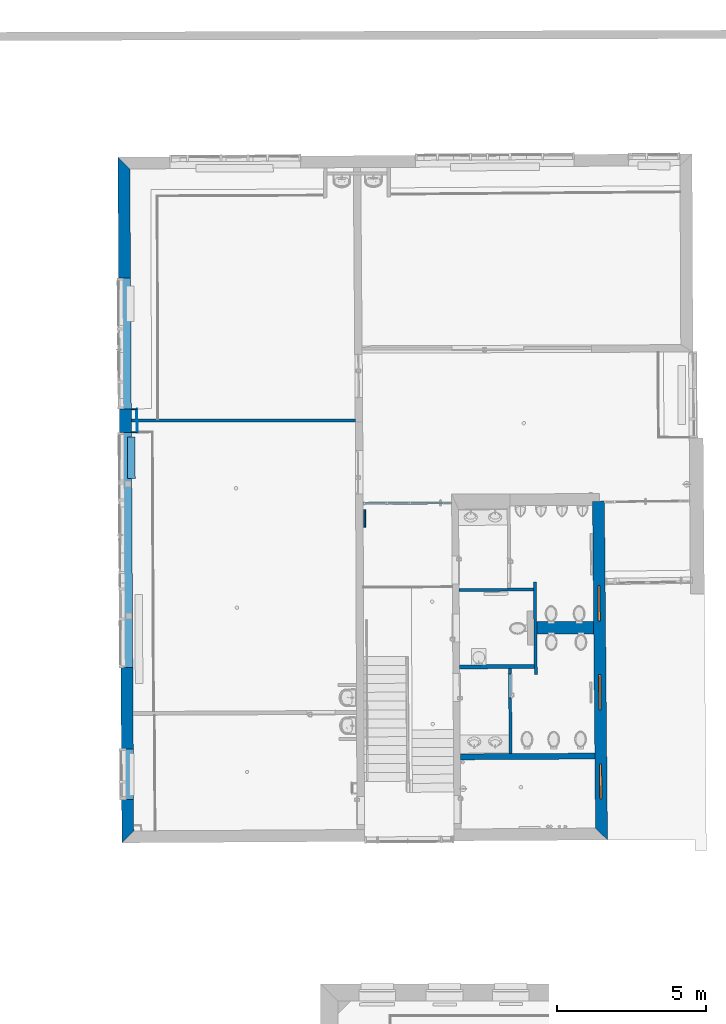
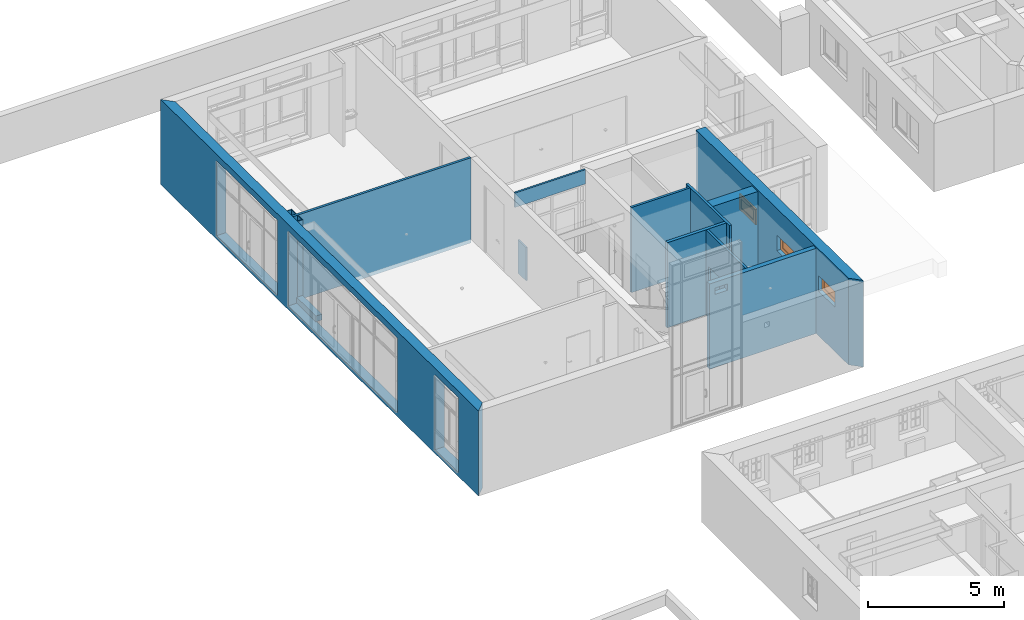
# One storey, part 32 of 196: 16 walls, 3 proxies, 8 openings.
"""IFC2X3 building model written with IfcOpenShell, lengths in metres."""

from ifc_helpers import new_model, entity, si_unit, converted_unit, derived_unit, money_unit, direction, frame, origin_with_axes, origin_2d_with_axis, place, context, subcontext, project, spatial, polyline, rectangle, outline, extrude, faceted_brep, source, transform, mapped, material, layer, layer_set, layer_usage, type_object, element, fill, save


model = new_model("IFC2X3")

# Units and contexts
model_context = context("Model", 3, precision=1e-05, world=origin_with_axes(), true_north=direction((0.0, 1.0)))
body_context = subcontext(model_context, "Body", "Model", "MODEL_VIEW")
ifc_project = project(units=[si_unit("LENGTHUNIT", "METRE"), si_unit("AREAUNIT", "SQUARE_METRE"), si_unit("VOLUMEUNIT", "CUBIC_METRE"), converted_unit("PLANEANGLEUNIT", "DEGREE", entity("IfcPlaneAngleMeasure", 0.0174532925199), si_unit("PLANEANGLEUNIT", "RADIAN"), dimensions=[0, 0, 0, 0, 0, 0, 0]), money_unit("EUR"), converted_unit("TIMEUNIT", "Year", entity("IfcTimeMeasure", 31556926.0), si_unit("TIMEUNIT", "SECOND"), dimensions=[0, 0, 1, 0, 0, 0, 0]), si_unit("MASSUNIT", "GRAM", prefix="KILO"), si_unit("THERMODYNAMICTEMPERATUREUNIT", "DEGREE_CELSIUS"), si_unit("LUMINOUSINTENSITYUNIT", "LUMEN"), si_unit("ENERGYUNIT", "JOULE", prefix="MEGA"), derived_unit("THERMALCONDUCTANCEUNIT", [(si_unit("POWERUNIT", "WATT"), 1), (si_unit("LENGTHUNIT", "METRE"), -1), (si_unit("THERMODYNAMICTEMPERATUREUNIT", "KELVIN"), -1)]), derived_unit("SPECIFICHEATCAPACITYUNIT", [(si_unit("ENERGYUNIT", "JOULE"), 1), (si_unit("MASSUNIT", "GRAM", prefix="KILO"), -1), (si_unit("THERMODYNAMICTEMPERATUREUNIT", "KELVIN"), -1)]), derived_unit("MASSDENSITYUNIT", [(si_unit("MASSUNIT", "GRAM", prefix="KILO"), 1), (si_unit("VOLUMEUNIT", "CUBIC_METRE"), -1)])], contexts=[model_context])

# Site, building, storey
site_placement = place(None, origin_with_axes())
site = spatial("IfcSite", under=ifc_project, at=site_placement, Name="Gelände", CompositionType="ELEMENT")
building_placement = place(site_placement, origin_with_axes())
building = spatial("IfcBuilding", under=site, at=building_placement, Name="Gebäude", CompositionType="ELEMENT")
storey_placement = place(building_placement, frame((0.0, 0.0, -3.0), z_axis=(0.0, 0.0, 1.0), x_axis=(1.0, 0.0, 0.0)))
storey = spatial("IfcBuildingStorey", under=building, at=storey_placement, Name="KELLERGESCHOSS", CompositionType="ELEMENT", Elevation=-3.0)

# Wall, opening
ifc_material_1 = material(Name="05_ALLGEMEIN - TRAGENDE BAUTEILE")
ifc_layer_1 = layer(ifc_material_1, 0.2, ventilated="UNKNOWN")
ifc_layer_set_1 = layer_set([ifc_layer_1], Name="05_ALLGEMEIN - TRAGENDE BAUTEILE 0.2")
ifc_layer_usage_1 = layer_usage(ifc_layer_set_1, "AXIS2", "NEGATIVE", 0.2)
wall_type_1 = type_object("IfcWallType", Name="05_ALLGEMEIN - TRAGENDE BAUTEILE 200", PredefinedType="ELEMENTEDWALL")
wall_1_placement = place(storey_placement, frame((-23.659108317, 33.6327594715, 0.25), z_axis=(0.0, 0.0, 1.0), x_axis=(0.999982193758, 0.00596759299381, 0.0)))
wall_1 = element("IfcWallStandardCase", 1, at=wall_1_placement, inside=storey, type_object=wall_type_1, material=ifc_layer_usage_1, Name="Wand-030", ObjectType="ELEMENTEDWALL", context=body_context, shape_type="SweptSolid", body=[
    extrude(outline(polyline([(0.230000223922, 0.0), (4.75491896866, 0.0), (4.75428653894, 0.2), (0.229721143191, 0.2), (0.230000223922, 0.0)])), origin_with_axes(), (0.0, 0.0, 1.0), 3.81),
])
opening_1_placement = place(wall_1_placement, frame((23.4579804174, -33.7733485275, 2.75), z_axis=(0.0, 0.0, 1.0), x_axis=(0.999982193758, -0.00596759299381, 0.0)))
element("IfcOpeningElement", 2, at=opening_1_placement, cuts=wall_1, Name="DD-002", context=body_context, shape_type="SweptSolid", body=[
    extrude(rectangle(XDim=0.531065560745, YDim=0.279959, at=origin_2d_with_axis()), frame((-22.9389283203, 33.4043876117, 0.657700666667), z_axis=(0.00596759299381, -0.999982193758, 0.0), x_axis=(0.999982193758, 0.00596759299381, 0.0)), (0.0, 0.0, -1.0), 0.685127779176),
])

# Wall, openings, proxies
ifc_layer_2 = layer(ifc_material_1, 0.4, ventilated="UNKNOWN")
ifc_layer_set_2 = layer_set([ifc_layer_2], Name="05_ALLGEMEIN - TRAGENDE BAUTEILE 0.4")
ifc_layer_usage_2 = layer_usage(ifc_layer_set_2, "AXIS2", "POSITIVE", -0.4)
wall_type_2 = type_object("IfcWallType", Name="05_ALLGEMEIN - TRAGENDE BAUTEILE 400", PredefinedType="ELEMENTEDWALL")
wall_2_placement = place(storey_placement, frame((-18.8793992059, 30.9366272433, 0.25), z_axis=(0.0, 0.0, 1.0), x_axis=(-0.00912963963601, 0.999958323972, 0.0)))
wall_2 = element("IfcWallStandardCase", 3, at=wall_2_placement, inside=storey, type_object=wall_type_2, material=ifc_layer_usage_2, Name="Wand-030", ObjectType="ELEMENTEDWALL", context=body_context, shape_type="SweptSolid", body=[
    extrude(outline(polyline([(-0.0012577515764, -0.4), (11.3947571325, -0.4), (11.3947571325, 0.0), (0.400001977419, 0.0), (-0.0012577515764, -0.4)])), origin_with_axes(), (0.0, 0.0, 1.0), 3.87458740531),
])
opening_2_placement = place(wall_2_placement, frame((1.9656103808, 0.0, 1.98971566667), z_axis=(0.0, 0.0, 1.0), x_axis=(1.0, 0.0, 0.0)))
opening_2 = element("IfcOpeningElement", 4, at=opening_2_placement, cuts=wall_2, Name="Fenster-015", context=body_context, shape_type="SweptSolid", body=[
    extrude(rectangle(XDim=1.18997480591, YDim=0.699207, at=origin_2d_with_axis()), frame((0.0, -0.225670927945, 0.3496035), z_axis=(0.0, 1.0, 0.0), x_axis=(-1.0, 0.0, 0.0)), (0.0, 0.0, 1.0), 0.625670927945),
    extrude(rectangle(XDim=1.08997480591, YDim=0.649207, at=origin_2d_with_axis()), frame((0.0, -0.225670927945, 0.3246035), z_axis=(0.0, -1.0, 0.0), x_axis=(-1.0, 0.0, 0.0)), (0.0, 0.0, 1.0), 0.574329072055),
])
opening_3_placement = place(wall_2_placement, frame((4.97186867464, 0.0, 1.98971566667), z_axis=(0.0, 0.0, 1.0), x_axis=(1.0, 0.0, 0.0)))
opening_3 = element("IfcOpeningElement", 5, at=opening_3_placement, cuts=wall_2, Name="Fenster-015", context=body_context, shape_type="SweptSolid", body=[
    extrude(rectangle(XDim=1.18997480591, YDim=0.699207, at=origin_2d_with_axis()), frame((0.0, -0.225670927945, 0.3496035), z_axis=(0.0, 1.0, 0.0), x_axis=(-1.0, 0.0, 0.0)), (0.0, 0.0, 1.0), 0.625670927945),
    extrude(rectangle(XDim=1.08997480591, YDim=0.649207, at=origin_2d_with_axis()), frame((0.0, -0.225670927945, 0.3246035), z_axis=(0.0, -1.0, 0.0), x_axis=(-1.0, 0.0, 0.0)), (0.0, 0.0, 1.0), 0.574329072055),
])
opening_4_placement = place(wall_2_placement, frame((7.96021106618, 0.0, 1.98971566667), z_axis=(0.0, 0.0, 1.0), x_axis=(1.0, 0.0, 0.0)))
opening_4 = element("IfcOpeningElement", 6, at=opening_4_placement, cuts=wall_2, Name="Fenster-015", context=body_context, shape_type="SweptSolid", body=[
    extrude(rectangle(XDim=1.18997480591, YDim=0.699207, at=origin_2d_with_axis()), frame((0.0, -0.225670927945, 0.3496035), z_axis=(0.0, 1.0, 0.0), x_axis=(-1.0, 0.0, 0.0)), (0.0, 0.0, 1.0), 0.625670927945),
    extrude(rectangle(XDim=1.08997480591, YDim=0.649207, at=origin_2d_with_axis()), frame((0.0, -0.225670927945, 0.3246035), z_axis=(0.0, -1.0, 0.0), x_axis=(-1.0, 0.0, 0.0)), (0.0, 0.0, 1.0), 0.574329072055),
])
building_element_proxy_type = type_object("IfcBuildingElementProxyType", Name="1-Flügelfenster 25", PredefinedType="NOTDEFINED")
shared_shape = source(origin_with_axes(), body_context, "Body", "Brep", [
    faceted_brep([(0.594987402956, -0.07, 0.0), (0.514987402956, -0.07, 0.08), (0.514987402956, 0.0, 0.08), (0.594987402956, 0.0, 0.0), (0.594987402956, -0.07, 0.699207), (0.514987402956, -0.07, 0.619207), (0.514987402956, 0.0, 0.619207), (0.594987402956, 0.0, 0.699207)], [[[0, 1, 2, 3]], [[0, 4, 5, 1]], [[1, 5, 6, 2]], [[3, 2, 6, 7]], [[4, 0, 3, 7]], [[5, 4, 7, 6]]]),
    faceted_brep([(-0.594987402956, -0.07, 0.0), (-0.594987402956, -0.07, 0.699207), (-0.594987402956, 0.0, 0.699207), (-0.594987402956, 0.0, 0.0), (-0.514987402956, -0.07, 0.08), (-0.514987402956, -0.07, 0.619207), (-0.514987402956, 0.0, 0.619207), (-0.514987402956, 0.0, 0.08)], [[[0, 1, 2, 3]], [[0, 4, 5, 1]], [[1, 5, 6, 2]], [[3, 2, 6, 7]], [[4, 0, 3, 7]], [[5, 4, 7, 6]]]),
    faceted_brep([(0.594987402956, -0.07, 0.0), (-0.594987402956, -0.07, 0.0), (-0.594987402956, 0.0, 0.0), (0.594987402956, 0.0, 0.0), (0.514987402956, -0.07, 0.08), (0.0, -0.07, 0.08), (-0.514987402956, -0.07, 0.08), (-0.514987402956, 0.0, 0.08), (0.0, 0.0, 0.08), (0.514987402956, 0.0, 0.08)], [[[0, 1, 2, 3]], [[0, 4, 5, 6, 1]], [[1, 6, 7, 2]], [[3, 2, 7, 8, 9]], [[4, 0, 3, 9]], [[5, 4, 9, 8]], [[6, 5, 8, 7]]]),
    faceted_brep([(0.594987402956, -0.07, 0.699207), (0.514987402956, -0.07, 0.619207), (0.514987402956, 0.0, 0.619207), (0.594987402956, 0.0, 0.699207), (-0.594987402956, -0.07, 0.699207), (-0.514987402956, -0.07, 0.619207), (0.0, -0.07, 0.619207), (0.0, 0.0, 0.619207), (-0.514987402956, 0.0, 0.619207), (-0.594987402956, 0.0, 0.699207)], [[[0, 1, 2, 3]], [[0, 4, 5, 6, 1]], [[1, 6, 7, 2]], [[3, 2, 7, 8, 9]], [[4, 0, 3, 9]], [[5, 4, 9, 8]], [[6, 5, 8, 7]]]),
    faceted_brep([(0.534987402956, 0.0, 0.06), (0.454987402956, 0.0, 0.14), (0.454987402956, 0.005, 0.14), (0.534987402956, 0.005, 0.06), (0.534987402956, 0.0, 0.639207), (0.454987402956, 0.0, 0.559207), (0.454987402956, 0.005, 0.559207), (0.534987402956, 0.005, 0.639207)], [[[0, 1, 2, 3]], [[0, 4, 5, 1]], [[1, 5, 6, 2]], [[3, 2, 6, 7]], [[4, 0, 3, 7]], [[5, 4, 7, 6]]]),
    faceted_brep([(-0.534987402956, 0.0, 0.06), (-0.534987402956, 0.005, 0.06), (-0.454987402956, 0.005, 0.14), (-0.454987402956, 0.0, 0.14), (-0.534987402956, 0.0, 0.639207), (-0.534987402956, 0.005, 0.639207), (-0.454987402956, 0.005, 0.559207), (-0.454987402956, 0.0, 0.559207)], [[[0, 1, 2, 3]], [[4, 5, 1, 0]], [[1, 5, 6, 2]], [[3, 2, 6, 7]], [[0, 3, 7, 4]], [[7, 6, 5, 4]]]),
    faceted_brep([(0.534987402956, 0.0, 0.06), (-0.534987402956, 0.0, 0.06), (-0.534987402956, 0.005, 0.06), (0.534987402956, 0.005, 0.06), (0.454987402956, 0.0, 0.14), (-0.454987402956, 0.0, 0.14), (-0.454987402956, 0.005, 0.14), (0.454987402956, 0.005, 0.14)], [[[0, 1, 2, 3]], [[0, 4, 5, 1]], [[1, 5, 6, 2]], [[3, 2, 6, 7]], [[4, 0, 3, 7]], [[5, 4, 7, 6]]]),
    faceted_brep([(0.534987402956, 0.0, 0.639207), (0.534987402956, 0.005, 0.639207), (-0.534987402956, 0.005, 0.639207), (-0.534987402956, 0.0, 0.639207), (0.454987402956, 0.0, 0.559207), (0.454987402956, 0.005, 0.559207), (-0.454987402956, 0.005, 0.559207), (-0.454987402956, 0.0, 0.559207)], [[[0, 1, 2, 3]], [[4, 5, 1, 0]], [[1, 5, 6, 2]], [[3, 2, 6, 7]], [[0, 3, 7, 4]], [[7, 6, 5, 4]]]),
    faceted_brep([(0.514987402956, -0.065, 0.08), (0.454987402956, -0.065, 0.14), (0.454987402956, 0.0, 0.14), (0.514987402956, 0.0, 0.08), (0.514987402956, -0.065, 0.619207), (0.454987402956, -0.065, 0.559207), (0.454987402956, 0.0, 0.559207), (0.514987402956, 0.0, 0.619207)], [[[0, 1, 2, 3]], [[0, 4, 5, 1]], [[1, 5, 6, 2]], [[3, 2, 6, 7]], [[4, 0, 3, 7]], [[5, 4, 7, 6]]]),
    faceted_brep([(-0.514987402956, -0.065, 0.08), (-0.514987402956, 0.0, 0.08), (-0.454987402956, 0.0, 0.14), (-0.454987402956, -0.065, 0.14), (-0.514987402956, -0.065, 0.619207), (-0.514987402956, 0.0, 0.619207), (-0.454987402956, 0.0, 0.559207), (-0.454987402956, -0.065, 0.559207)], [[[0, 1, 2, 3]], [[4, 5, 1, 0]], [[1, 5, 6, 2]], [[3, 2, 6, 7]], [[0, 3, 7, 4]], [[7, 6, 5, 4]]]),
    faceted_brep([(0.514987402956, -0.065, 0.08), (-0.514987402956, -0.065, 0.08), (-0.514987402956, 0.0, 0.08), (0.514987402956, 0.0, 0.08), (0.454987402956, -0.065, 0.14), (-0.454987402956, -0.065, 0.14), (-0.454987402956, 0.0, 0.14), (0.454987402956, 0.0, 0.14)], [[[0, 1, 2, 3]], [[0, 4, 5, 1]], [[1, 5, 6, 2]], [[3, 2, 6, 7]], [[4, 0, 3, 7]], [[5, 4, 7, 6]]]),
    faceted_brep([(0.514987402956, -0.065, 0.619207), (0.514987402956, 0.0, 0.619207), (-0.514987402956, 0.0, 0.619207), (-0.514987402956, -0.065, 0.619207), (0.454987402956, -0.065, 0.559207), (0.454987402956, 0.0, 0.559207), (-0.454987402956, 0.0, 0.559207), (-0.454987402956, -0.065, 0.559207)], [[[0, 1, 2, 3]], [[4, 5, 1, 0]], [[1, 5, 6, 2]], [[3, 2, 6, 7]], [[0, 3, 7, 4]], [[7, 6, 5, 4]]]),
    faceted_brep([(0.454987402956, -0.035, 0.14), (-0.454987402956, -0.035, 0.14), (-0.454987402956, -0.025, 0.14), (0.454987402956, -0.025, 0.14), (0.454987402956, -0.035, 0.559207), (-0.454987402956, -0.035, 0.559207), (-0.454987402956, -0.025, 0.559207), (0.454987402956, -0.025, 0.559207)], [[[0, 1, 2, 3]], [[0, 4, 5, 1]], [[1, 5, 6, 2]], [[3, 2, 6, 7]], [[4, 0, 3, 7]], [[5, 4, 7, 6]]]),
])
proxy_1_placement = place(opening_2_placement, frame((-0.594987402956, 0.0, 0.0), z_axis=(0.0, 0.0, 1.0), x_axis=(1.0, 0.0, 0.0)))
proxy_1 = element("IfcBuildingElementProxy", 7, at=proxy_1_placement, inside=storey, type_object=building_element_proxy_type, Name="Fenster-015", context=body_context, shape_type="MappedRepresentation", body=[
    mapped(shared_shape, transform((0.594987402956, -0.155670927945, 0.0))),
])
fill(opening_2, proxy_1)
proxy_2_placement = place(opening_3_placement, frame((-0.594987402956, 0.0, 0.0), z_axis=(0.0, 0.0, 1.0), x_axis=(1.0, 0.0, 0.0)))
proxy_2 = element("IfcBuildingElementProxy", 8, at=proxy_2_placement, inside=storey, type_object=building_element_proxy_type, Name="Fenster-015", context=body_context, shape_type="MappedRepresentation", body=[
    mapped(shared_shape, transform((0.594987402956, -0.155670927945, 0.0))),
])
fill(opening_3, proxy_2)
proxy_3_placement = place(opening_4_placement, frame((-0.594987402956, 0.0, 0.0), z_axis=(0.0, 0.0, 1.0), x_axis=(1.0, 0.0, 0.0)))
proxy_3 = element("IfcBuildingElementProxy", 9, at=proxy_3_placement, inside=storey, type_object=building_element_proxy_type, Name="Fenster-015", context=body_context, shape_type="MappedRepresentation", body=[
    mapped(shared_shape, transform((0.594987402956, -0.155670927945, 0.0))),
])
fill(opening_4, proxy_3)

# Wall, openings
ifc_layer_usage_3 = layer_usage(ifc_layer_set_2, "AXIS2", "NEGATIVE", 0.4)
wall_3_placement = place(storey_placement, frame((-34.9499215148, 53.9095265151, 0.25), z_axis=(0.0, 0.0, 1.0), x_axis=(0.00586471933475, -0.999982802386, 0.0)))
wall_3 = element("IfcWallStandardCase", 10, at=wall_3_placement, inside=storey, type_object=wall_type_2, material=ifc_layer_usage_3, Name="Wand-030", ObjectType="ELEMENTEDWALL", context=body_context, shape_type="SweptSolid", body=[
    extrude(outline(polyline([(0.0, 0.0), (23.068675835, 0.0), (22.6686275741, 0.4), (0.39998286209, 0.4), (0.0, 0.0)])), origin_with_axes(), (0.0, 0.0, 1.0), 3.81),
])
opening_5_placement = place(wall_3_placement, frame((13.21813974, 0.0, 0.171025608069), z_axis=(0.0, 0.0, 1.0), x_axis=(1.0, 0.0, 0.0)))
element("IfcOpeningElement", 11, at=opening_5_placement, cuts=wall_3, Name="Fenster-024", context=body_context, shape_type="SweptSolid", body=[
    extrude(rectangle(XDim=7.90340237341, YDim=3.34999990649, at=origin_2d_with_axis()), frame((0.0, -0.4, 1.67499995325), z_axis=(0.0, -1.0, 0.0), x_axis=(1.0, 0.0, 0.0)), (0.0, 0.0, -1.0), 1.2),
])
opening_6_placement = place(wall_3_placement, frame((6.26868890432, 0.0, 0.171025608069), z_axis=(0.0, 0.0, 1.0), x_axis=(1.0, 0.0, 0.0)))
element("IfcOpeningElement", 12, at=opening_6_placement, cuts=wall_3, Name="Fenster-024", context=body_context, shape_type="SweptSolid", body=[
    extrude(rectangle(XDim=4.39898330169, YDim=3.34999990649, at=origin_2d_with_axis()), frame((0.0, -0.4, 1.67499995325), z_axis=(0.0, 1.0, 0.0), x_axis=(-1.0, 0.0, 0.0)), (0.0, 0.0, 1.0), 1.2),
])
opening_7_placement = place(wall_3_placement, frame((20.7627325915, 0.0, 0.171025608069), z_axis=(0.0, 0.0, 1.0), x_axis=(1.0, 0.0, 0.0)))
element("IfcOpeningElement", 13, at=opening_7_placement, cuts=wall_3, Name="Fenster-024", context=body_context, shape_type="SweptSolid", body=[
    extrude(rectangle(XDim=1.71076197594, YDim=3.34999990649, at=origin_2d_with_axis()), frame((0.0, -0.4, 1.67499995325), z_axis=(0.0, 1.0, 0.0), x_axis=(-1.0, 0.0, 0.0)), (0.0, 0.0, 1.0), 1.2),
])

# Walls
ifc_layer_3 = layer(ifc_material_1, 0.1, ventilated="UNKNOWN")
ifc_layer_set_3 = layer_set([ifc_layer_3], Name="05_ALLGEMEIN - TRAGENDE BAUTEILE 0.1")
ifc_layer_usage_4 = layer_usage(ifc_layer_set_3, "AXIS2", "NEGATIVE", 0.0)
wall_type_3 = type_object("IfcWallType", Name="05_ALLGEMEIN - TRAGENDE BAUTEILE 100", PredefinedType="ELEMENTEDWALL")
wall_4_placement = place(storey_placement, frame((-20.8709714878, 39.3107955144, 0.25), z_axis=(0.0, 0.0, 1.0), x_axis=(-0.999990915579, -0.00426248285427, 0.0)))
element("IfcWallStandardCase", 14, at=wall_4_placement, inside=storey, type_object=wall_type_3, material=ifc_layer_usage_4, Name="Wand-030", ObjectType="ELEMENTEDWALL", context=body_context, shape_type="SweptSolid", body=[
    extrude(outline(polyline([(0.100664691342, -0.1), (2.60019098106, -0.1), (2.59988092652, 0.0), (0.100002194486, 0.0), (0.100664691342, -0.1)])), origin_with_axes(), (0.0, 0.0, 1.0), 3.81),
])
ifc_layer_usage_5 = layer_usage(ifc_layer_set_3, "AXIS2", "NEGATIVE", 0.1)
wall_5_placement = place(storey_placement, frame((-20.8404593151, 36.5083763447, 0.25), z_axis=(0.0, 0.0, 1.0), x_axis=(-0.0108871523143, 0.999940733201, 0.0)))
element("IfcWallStandardCase", 15, at=wall_5_placement, inside=storey, type_object=wall_type_3, material=ifc_layer_usage_5, Name="Wand-030", ObjectType="ELEMENTEDWALL", context=body_context, shape_type="SweptSolid", body=[
    extrude(outline(polyline([(0.0, 0.0), (3.10867374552, 0.0), (3.10867374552, 0.1), (0.0, 0.1), (0.0, 0.0)])), origin_with_axes(), (0.0, 0.0, 1.0), 3.81),
])

# Wall, opening
ifc_layer_usage_6 = layer_usage(ifc_layer_set_3, "AXIS2", "NEGATIVE", 0.1)
wall_6_placement = place(storey_placement, frame((-21.8150295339, 36.7024294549, 0.25), z_axis=(0.0, 0.0, 1.0), x_axis=(0.00969035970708, -0.999953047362, 0.0)))
wall_6 = element("IfcWallStandardCase", 16, at=wall_6_placement, inside=storey, type_object=wall_type_3, material=ifc_layer_usage_6, Name="Wand-030", ObjectType="ELEMENTEDWALL", context=body_context, shape_type="SweptSolid", body=[
    extrude(outline(polyline([(0.0, 0.0), (2.85863042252, 0.0), (2.85900271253, 0.1), (0.000381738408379, 0.1), (0.0, 0.0)])), origin_with_axes(), (0.0, 0.0, 1.0), 3.81),
])
opening_8_placement = place(wall_6_placement, frame((0.583691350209, 0.0, 0.17), z_axis=(0.0, 0.0, 1.0), x_axis=(1.0, 0.0, 0.0)))
element("IfcOpeningElement", 17, at=opening_8_placement, cuts=wall_6, Name="Tür-022", context=body_context, shape_type="SweptSolid", body=[
    extrude(rectangle(XDim=0.820670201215, YDim=2.10259694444, at=origin_2d_with_axis()), frame((0.0, 0.1, 1.05129847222), z_axis=(0.0, 1.0, 0.0), x_axis=(-1.0, 0.0, 0.0)), (0.0, 0.0, -1.0), 0.3),
])

# Walls
ifc_layer_usage_7 = layer_usage(ifc_layer_set_3, "AXIS2", "NEGATIVE", 0.0)
wall_7_placement = place(storey_placement, frame((-26.7150160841, 44.9925691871, 0.25), z_axis=(0.0, 0.0, 1.0), x_axis=(-0.999999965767, 0.000261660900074, 0.0)))
element("IfcWallStandardCase", 18, at=wall_7_placement, inside=storey, type_object=wall_type_3, material=ifc_layer_usage_7, Name="Wand-031", ObjectType="ELEMENTEDWALL", context=body_context, shape_type="SweptSolid", body=[
    extrude(outline(polyline([(0.250811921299, -0.1), (7.78322705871, -0.1), (7.78261440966, 0.0), (0.250008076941, 0.0), (0.250811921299, -0.1)])), origin_with_axes(), (0.0, 0.0, 1.0), 3.81),
])
ifc_material_2 = material(Name="43_Gipskarton")
ifc_layer_4 = layer(ifc_material_2, 0.03, ventilated="UNKNOWN")
ifc_layer_set_4 = layer_set([ifc_layer_4], Name="43_Gipskarton 0.03")
ifc_layer_usage_8 = layer_usage(ifc_layer_set_4, "AXIS2", "NEGATIVE", 0.03)
wall_type_4 = type_object("IfcWallType", Name="43_Gipskarton 30", PredefinedType="ELEMENTEDWALL")
wall_8_placement = place(storey_placement, frame((-34.296054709, 44.9945528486, 0.25), z_axis=(0.0, 0.0, 1.0), x_axis=(0.00297279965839, 0.999995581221, 0.0)))
element("IfcWallStandardCase", 19, at=wall_8_placement, inside=storey, type_object=wall_type_4, material=ifc_layer_usage_8, Name="Wand-034", ObjectType="ELEMENTEDWALL", context=body_context, shape_type="SweptSolid", body=[
    extrude(outline(polyline([(0.100000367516, 0.0), (0.450880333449, 0.0), (0.420556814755, 0.03), (0.0999190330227, 0.03), (0.100000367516, 0.0)])), origin_with_axes(), (0.0, 0.0, 1.0), 3.81),
])
ifc_layer_usage_9 = layer_usage(ifc_layer_set_4, "AXIS2", "NEGATIVE", 0.0)
wall_9_placement = place(storey_placement, frame((-34.2823575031, 44.9945492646, 0.25), z_axis=(0.0, 0.0, 1.0), x_axis=(0.00360757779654, -0.99999349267, 0.0)))
element("IfcWallStandardCase", 20, at=wall_9_placement, inside=storey, type_object=wall_type_4, material=ifc_layer_usage_9, Name="Wand-034", ObjectType="ELEMENTEDWALL", context=body_context, shape_type="SweptSolid", body=[
    extrude(outline(polyline([(-0.000116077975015, -0.03), (0.320110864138, -0.03), (0.350426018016, 0.0), (0.0, 0.0), (-0.000116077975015, -0.03)])), origin_with_axes(), (0.0, 0.0, 1.0), 3.81),
])
ifc_layer_usage_10 = layer_usage(ifc_layer_set_4, "AXIS2", "NEGATIVE", 0.0)
wall_10_placement = place(storey_placement, frame((-34.281093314, 44.6441255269, 0.25), z_axis=(0.0, 0.0, 1.0), x_axis=(-0.999976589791, 0.00684250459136, 0.0)))
element("IfcWallStandardCase", 21, at=wall_10_placement, inside=storey, type_object=wall_type_4, material=ifc_layer_usage_10, Name="Wand-035", ObjectType="ELEMENTEDWALL", context=body_context, shape_type="SweptSolid", body=[
    extrude(outline(polyline([(0.0303151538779, -0.03), (0.214876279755, -0.03), (0.214495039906, 0.0), (0.0, 0.0), (0.0303151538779, -0.03)])), origin_with_axes(), (0.0, 0.0, 1.0), 3.81),
])
ifc_layer_usage_11 = layer_usage(ifc_layer_set_4, "AXIS2", "NEGATIVE", 0.03)
wall_11_placement = place(storey_placement, frame((-34.2947143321, 45.4454311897, 0.25), z_axis=(0.0, 0.0, 1.0), x_axis=(-0.999969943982, -0.00775313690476, 0.0)))
element("IfcWallStandardCase", 22, at=wall_11_placement, inside=storey, type_object=wall_type_4, material=ifc_layer_usage_11, Name="Wand-035", ObjectType="ELEMENTEDWALL", context=body_context, shape_type="SweptSolid", body=[
    extrude(outline(polyline([(0.0, 0.0), (0.205556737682, 0.0), (0.205613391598, 0.03), (0.030323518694, 0.03), (0.0, 0.0)])), origin_with_axes(), (0.0, 0.0, 1.0), 3.81),
])
ifc_layer_5 = layer(ifc_material_1, 0.41, ventilated="UNKNOWN")
ifc_layer_set_5 = layer_set([ifc_layer_5], Name="05_ALLGEMEIN - TRAGENDE BAUTEILE 0.41")
ifc_layer_usage_12 = layer_usage(ifc_layer_set_5, "AXIS2", "NEGATIVE", 0.41)
wall_type_5 = type_object("IfcWallType", Name="05_ALLGEMEIN - TRAGENDE BAUTEILE 410", PredefinedType="ELEMENTEDWALL")
wall_12_placement = place(storey_placement, frame((-20.8553010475, 37.8715292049, 0.25), z_axis=(0.0, 0.0, 1.0), x_axis=(0.999998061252, 0.00196913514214, 0.0)))
element("IfcWallStandardCase", 23, at=wall_12_placement, inside=storey, type_object=wall_type_5, material=ifc_layer_usage_12, Name="Wand-030", ObjectType="ELEMENTEDWALL", context=body_context, shape_type="SweptSolid", body=[
    extrude(outline(polyline([(0.0, 0.0), (1.91255537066, 0.0), (1.90961946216, 0.41), (-0.00365657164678, 0.41), (0.0, 0.0)])), origin_with_axes(), (0.0, 0.0, 1.0), 3.81),
])
ifc_material_3 = material(Name="01_ALLGEMEIN - BAUTEIL")
ifc_layer_6 = layer(ifc_material_3, 0.06, ventilated="UNKNOWN")
ifc_layer_set_6 = layer_set([ifc_layer_6], Name="01_ALLGEMEIN - BAUTEIL 0.06")
ifc_layer_usage_13 = layer_usage(ifc_layer_set_6, "AXIS2", "NEGATIVE", 0.0)
wall_type_6 = type_object("IfcWallType", Name="01_ALLGEMEIN - BAUTEIL 60", PredefinedType="ELEMENTEDWALL")
wall_13_placement = place(storey_placement, frame((-26.6161984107, 42.0479024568, 0.587727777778), z_axis=(0.0, 0.0, 1.0), x_axis=(0.000179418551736, -0.999999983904, 0.0)))
element("IfcWallStandardCase", 24, at=wall_13_placement, inside=storey, type_object=wall_type_6, material=ifc_layer_usage_13, Name="Wand-030", ObjectType="ELEMENTEDWALL", context=body_context, shape_type="SweptSolid", body=[
    extrude(outline(polyline([(0.0, -0.06), (0.581109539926, -0.06), (0.581109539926, 0.0), (0.0, 0.0), (0.0, -0.06)])), origin_with_axes(), (0.0, 0.0, 1.0), 1.490549),
])
ifc_layer_7 = layer(ifc_material_3, 0.255, ventilated="UNKNOWN")
ifc_layer_set_7 = layer_set([ifc_layer_7], Name="01_ALLGEMEIN - BAUTEIL 0.255")
ifc_layer_usage_14 = layer_usage(ifc_layer_set_7, "AXIS2", "NEGATIVE", 0.255)
wall_type_7 = type_object("IfcWallType", Name="01_ALLGEMEIN - BAUTEIL 255", PredefinedType="ELEMENTEDWALL")
wall_14_placement = place(storey_placement, frame((-34.366366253, 43.0952289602, 0.548104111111), z_axis=(0.0, 0.0, 1.0), x_axis=(-0.0064260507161, 0.999979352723, 0.0)))
element("IfcWallStandardCase", 25, at=wall_14_placement, inside=storey, type_object=wall_type_7, material=ifc_layer_usage_14, Name="Wand-030", ObjectType="ELEMENTEDWALL", context=body_context, shape_type="SweptSolid", body=[
    extrude(outline(polyline([(0.0, 0.0), (1.39643185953, 0.0), (1.39643185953, 0.255), (0.0, 0.255), (0.0, 0.0)])), origin_with_axes(), (0.0, 0.0, 1.0), 0.260503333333),
])
ifc_layer_8 = layer(ifc_material_1, 0.08, ventilated="UNKNOWN")
ifc_layer_set_8 = layer_set([ifc_layer_8], Name="05_ALLGEMEIN - TRAGENDE BAUTEILE 0.08")
ifc_layer_usage_15 = layer_usage(ifc_layer_set_8, "AXIS2", "NEGATIVE", 0.08)
wall_type_8 = type_object("IfcWallType", Name="05_ALLGEMEIN - TRAGENDE BAUTEILE 80", PredefinedType="ELEMENTEDWALL")
wall_15_placement = place(storey_placement, frame((-23.7230416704, 42.315623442, 3.42259944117), z_axis=(0.0, 0.0, 1.0), x_axis=(-0.999992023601, -0.00399408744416, 0.0)))
element("IfcWallStandardCase", 26, at=wall_15_placement, inside=storey, type_object=wall_type_8, material=ifc_layer_usage_15, Name="Wand-030", ObjectType="ELEMENTEDWALL", context=body_context, shape_type="SweptSolid", body=[
    extrude(outline(polyline([(0.0, 0.0), (2.9801547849, 0.0), (2.98012194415, 0.08), (-0.000269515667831, 0.08), (0.0, 0.0)])), origin_with_axes(), (0.0, 0.0, 1.0), 0.637400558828),
])
ifc_layer_9 = layer(ifc_material_1, 0.135904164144, ventilated="UNKNOWN")
ifc_layer_set_9 = layer_set([ifc_layer_9], Name="05_ALLGEMEIN - TRAGENDE BAUTEILE 0.135904")
ifc_layer_usage_16 = layer_usage(ifc_layer_set_9, "AXIS2", "NEGATIVE", 0.135904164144)
wall_type_9 = type_object("IfcWallType", Name="05_ALLGEMEIN - TRAGENDE BAUTEILE 136", PredefinedType="ELEMENTEDWALL")
wall_16_placement = place(storey_placement, frame((-23.6816300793, 36.6914665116, 0.25), z_axis=(0.0, 0.0, 1.0), x_axis=(0.999982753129, 0.0058731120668, 0.0)))
element("IfcWallStandardCase", 27, at=wall_16_placement, inside=storey, type_object=wall_type_9, material=ifc_layer_usage_16, Name="Wand-030", ObjectType="ELEMENTEDWALL", context=body_context, shape_type="SweptSolid", body=[
    extrude(outline(polyline([(0.230000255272, 0.0), (2.73904347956, 0.0), (2.73836202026, 0.135904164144), (0.229797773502, 0.135904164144), (0.230000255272, 0.0)])), origin_with_axes(), (0.0, 0.0, 1.0), 3.81),
])

save(model, "model.ifc")
